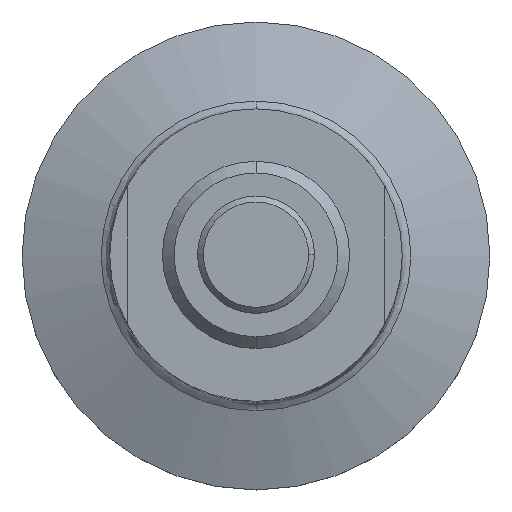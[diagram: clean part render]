
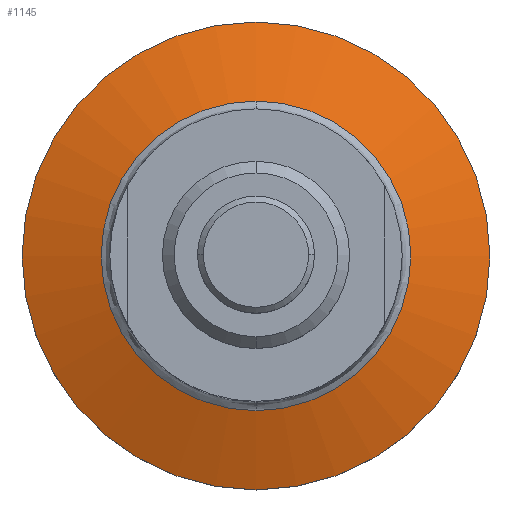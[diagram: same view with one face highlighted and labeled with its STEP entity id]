
A CAD part, top view. The second image highlights one B-rep face of the part: STEP entity #1145.
In plain terms, the highlighted free-form (B-spline) face has degree [3, 3] with [4, 4] control points.
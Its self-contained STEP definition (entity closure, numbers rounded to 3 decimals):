
#55 = CARTESIAN_POINT ( 'NONE',  ( 7.177, -20.842, -39.533 ) ) ;
#77 = DIRECTION ( 'NONE',  ( 0., 1., 0. ) ) ;
#117 = ORIENTED_EDGE ( 'NONE', *, *, #571, .T. ) ;
#151 = VERTEX_POINT ( 'NONE', #470 ) ;
#170 = FACE_BOUND ( 'NONE', #1329, .T. ) ;
#177 = CARTESIAN_POINT ( 'NONE',  ( 7.177, 20.842, -39.533 ) ) ;
#181 = VERTEX_POINT ( 'NONE', #594 ) ;
#189 = CARTESIAN_POINT ( 'NONE',  ( -20.296, -18.485, -44.862 ) ) ;
#232 = EDGE_CURVE ( 'NONE', #151, #181, #558, .T. ) ;
#288 = DIRECTION ( 'NONE',  ( 0., 0., -1. ) ) ;
#326 = CIRCLE ( 'NONE', #740, 13.235 ) ;
#349 = CIRCLE ( 'NONE', #815, 20. ) ;
#376 = EDGE_CURVE ( 'NONE', #1508, #495, #1297, .T. ) ;
#382 = DIRECTION ( 'NONE',  ( 0., 1., 0. ) ) ;
#410 = CARTESIAN_POINT ( 'NONE',  ( 0., 13.235, -38.435 ) ) ;
#438 = CARTESIAN_POINT ( 'NONE',  ( -20.296, -6.534, -39.575 ) ) ;
#470 = CARTESIAN_POINT ( 'NONE',  ( 0., -20., -40.826 ) ) ;
#495 = VERTEX_POINT ( 'NONE', #589 ) ;
#543 = FACE_OUTER_BOUND ( 'NONE', #779, .T. ) ;
#554 = CARTESIAN_POINT ( 'NONE',  ( -7.177, -7.367, -33.573 ) ) ;
#558 = CIRCLE ( 'NONE', #1474, 20. ) ;
#571 = EDGE_CURVE ( 'NONE', #495, #1508, #326, .T. ) ;
#589 = CARTESIAN_POINT ( 'NONE',  ( 0., -13.235, -38.435 ) ) ;
#594 = CARTESIAN_POINT ( 'NONE',  ( 0., 20., -40.826 ) ) ;
#625 = CARTESIAN_POINT ( 'NONE',  ( 0., 0., -40.826 ) ) ;
#636 = EDGE_CURVE ( 'NONE', #181, #151, #349, .T. ) ;
#664 = CARTESIAN_POINT ( 'NONE',  ( 7.177, 7.367, -33.573 ) ) ;
#688 = DIRECTION ( 'NONE',  ( 0., 0., 1. ) ) ;
#740 = AXIS2_PLACEMENT_3D ( 'NONE', #860, #288, #1461 ) ;
#779 = EDGE_LOOP ( 'NONE', ( #990, #1204 ) ) ;
#815 = AXIS2_PLACEMENT_3D ( 'NONE', #1520, #688, #77 ) ;
#860 = CARTESIAN_POINT ( 'NONE',  ( 0., 0., -38.435 ) ) ;
#861 = CARTESIAN_POINT ( 'NONE',  ( 0., 0., -38.435 ) ) ;
#889 = AXIS2_PLACEMENT_3D ( 'NONE', #861, #1234, #1089 ) ;
#890 = CARTESIAN_POINT ( 'NONE',  ( 20.296, -6.534, -39.575 ) ) ;
#899 = ORIENTED_EDGE ( 'NONE', *, *, #376, .T. ) ;
#990 = ORIENTED_EDGE ( 'NONE', *, *, #636, .T. ) ;
#1009 = CARTESIAN_POINT ( 'NONE',  ( 20.296, 18.485, -44.862 ) ) ;
#1016 = CARTESIAN_POINT ( 'NONE',  ( -7.177, -20.842, -39.533 ) ) ;
#1027 = CARTESIAN_POINT ( 'NONE',  ( -7.177, 20.842, -39.533 ) ) ;
#1089 = DIRECTION ( 'NONE',  ( 0., 1., 0. ) ) ;
#1099 = DIRECTION ( 'NONE',  ( 0., 0., 1. ) ) ;
#1140 = CARTESIAN_POINT ( 'NONE',  ( 7.177, -7.367, -33.573 ) ) ;
#1145 = ADVANCED_FACE ( 'NONE', ( #543, #170 ), #1450, .T. ) ;
#1204 = ORIENTED_EDGE ( 'NONE', *, *, #232, .T. ) ;
#1234 = DIRECTION ( 'NONE',  ( 0., 0., -1. ) ) ;
#1266 = CARTESIAN_POINT ( 'NONE',  ( 20.296, -18.485, -44.862 ) ) ;
#1275 = CARTESIAN_POINT ( 'NONE',  ( -7.177, 7.367, -33.573 ) ) ;
#1297 = CIRCLE ( 'NONE', #889, 13.235 ) ;
#1329 = EDGE_LOOP ( 'NONE', ( #899, #117 ) ) ;
#1450 =( BOUNDED_SURFACE ( )  B_SPLINE_SURFACE ( 3, 3, ( 
 ( #1009, #1499, #890, #1266 ),
 ( #177, #664, #1140, #55 ),
 ( #1027, #1275, #554, #1016 ),
 ( #1482, #1511, #438, #189 ) ),
 .UNSPECIFIED., .F., .F., .F. ) 
 B_SPLINE_SURFACE_WITH_KNOTS ( ( 4, 4 ),
 ( 4, 4 ),
 ( 0., 1. ),
 ( 0., 1. ),
 .UNSPECIFIED. ) 
 GEOMETRIC_REPRESENTATION_ITEM ( )  RATIONAL_B_SPLINE_SURFACE ( (
 ( 1., 0.943, 0.943, 1.),
 ( 0.943, 0.889, 0.889, 0.943),
 ( 0.943, 0.889, 0.889, 0.943),
 ( 1., 0.943, 0.943, 1.) ) ) 
 REPRESENTATION_ITEM ( '' )  SURFACE ( )  );
#1461 = DIRECTION ( 'NONE',  ( 0., 1., 0. ) ) ;
#1474 = AXIS2_PLACEMENT_3D ( 'NONE', #625, #1099, #382 ) ;
#1482 = CARTESIAN_POINT ( 'NONE',  ( -20.296, 18.485, -44.862 ) ) ;
#1499 = CARTESIAN_POINT ( 'NONE',  ( 20.296, 6.534, -39.575 ) ) ;
#1508 = VERTEX_POINT ( 'NONE', #410 ) ;
#1511 = CARTESIAN_POINT ( 'NONE',  ( -20.296, 6.534, -39.575 ) ) ;
#1520 = CARTESIAN_POINT ( 'NONE',  ( 0., 0., -40.826 ) ) ;
